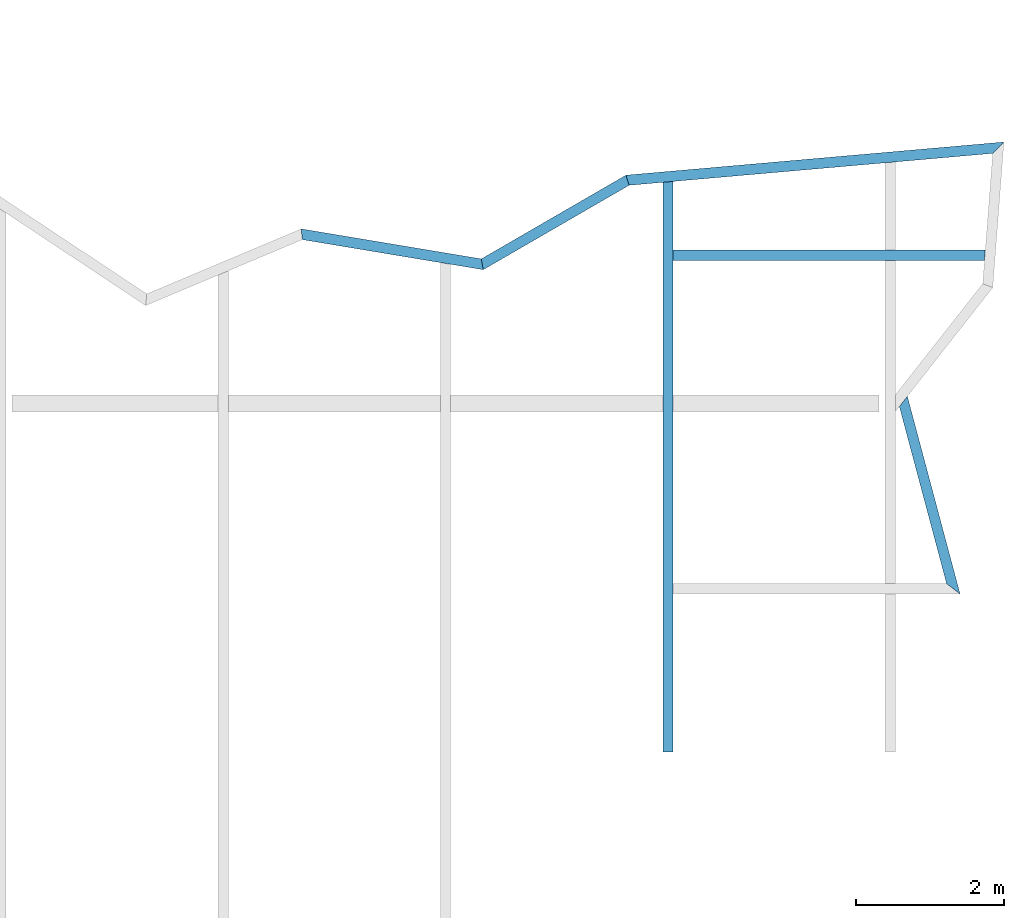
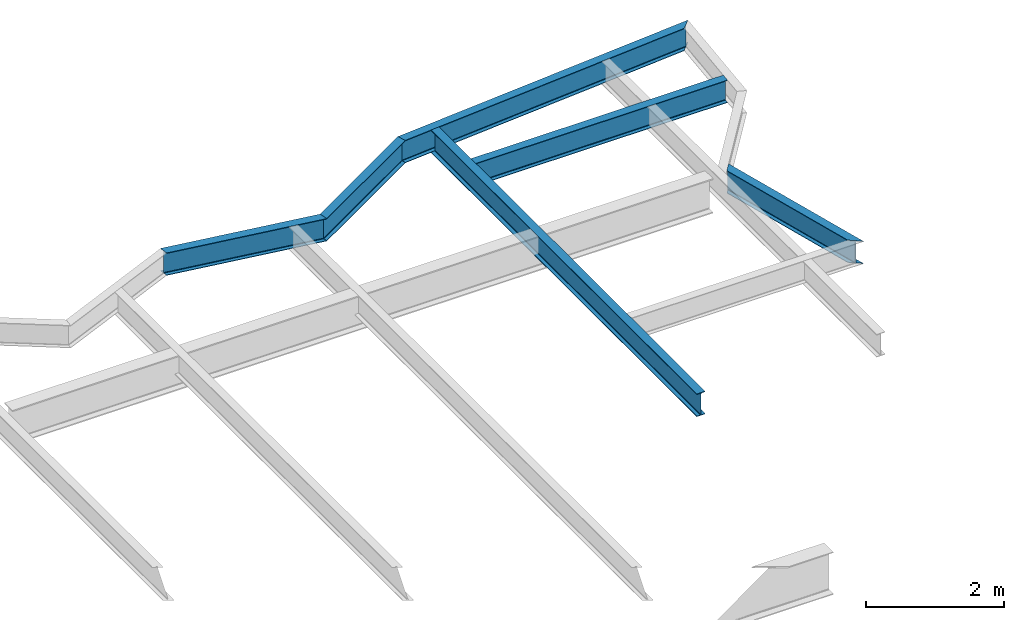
# One storey, part 20 of 21: 6 beams.
"""IFC2X3 building model written with IfcOpenShell, lengths in millimetres."""

import ifcopenshell
import ifcopenshell.guid

model = None  # the IFC model being written
_history = None  # IfcOwnerHistory: only IFC2X3 demands one
_inside = {}  # id of a spatial element -> (the spatial element, [elements in it])
_under = {}  # id of a project, library or spatial element -> (it, [spatial elements below it])
_declared = {}  # id of a project -> (the project, [libraries it declares])
_typed = {}  # id of a type object -> (the type object, [elements of that type])
_made_of = {}  # id of a material, layer set ... -> (it, [elements and type objects made of it])


def new_model(schema):
    """Start an empty IFC model of exactly this schema.

    Asked for "IFC4X3", IfcOpenShell would pick the latest addendum, in which some entities
    have other attributes; the version numbers below select the first issue.
    IFC2X3 requires an IfcOwnerHistory on every rooted entity: one is made here for all.
    """
    global model, _history
    if schema == "IFC4X3":
        model = ifcopenshell.file(schema_version=(4, 3, 0, 0))
    else:
        model = ifcopenshell.file(schema=schema)
    _inside.clear()
    _under.clear()
    _declared.clear()
    _typed.clear()
    _made_of.clear()
    _history = None
    if model.schema == "IFC2X3":
        org = make("IfcOrganization", Name="unknown")
        user = make(
            "IfcPersonAndOrganization",
            ThePerson=make("IfcPerson", FamilyName="unknown"),
            TheOrganization=org,
        )
        app = make(
            "IfcApplication",
            ApplicationDeveloper=org,
            Version="unknown",
            ApplicationFullName="unknown",
            ApplicationIdentifier="unknown",
        )
        _history = make(
            "IfcOwnerHistory",
            OwningUser=user,
            OwningApplication=app,
            ChangeAction="ADDED",
            CreationDate=0,
        )
    return model


def make(cls, **values):
    """One entity of the class cls with the attributes given. An attribute that is None is left unset."""
    return model.create_entity(
        cls, **{name: value for name, value in values.items() if value is not None}
    )


def rooted(cls, **values):
    """An entity with a GlobalId (a new one), such as an element, a storey or a relation."""
    return make(cls, GlobalId=ifcopenshell.guid.new(), OwnerHistory=_history, **values)


def si_unit(unit_type, name, prefix=None):
    """IfcSIUnit, for example si_unit("LENGTHUNIT", "METRE", prefix="MILLI")."""
    return make("IfcSIUnit", UnitType=unit_type, Prefix=prefix, Name=name)


def assignment(units):
    """IfcUnitAssignment: the units of a project."""
    return None if units is None else make("IfcUnitAssignment", Units=units)


def point(xyz):
    """IfcCartesianPoint."""
    return None if xyz is None else make("IfcCartesianPoint", Coordinates=xyz)


def direction(xyz):
    """IfcDirection."""
    return None if xyz is None else make("IfcDirection", DirectionRatios=xyz)


def frame(location, z_axis=None, x_axis=None):
    """IfcAxis2Placement3D, a coordinate frame: its origin and axes. An axis left out is left unset."""
    return make(
        "IfcAxis2Placement3D",
        Location=point(location),
        Axis=direction(z_axis),
        RefDirection=direction(x_axis),
    )


def origin():
    """The frame at (0, 0, 0) with its axes left unset."""
    return frame((0.0, 0.0, 0.0))


def place(relative_to, where):
    """IfcLocalPlacement: puts the frame where relative to a parent placement (None: the world)."""
    return make(
        "IfcLocalPlacement", PlacementRelTo=relative_to, RelativePlacement=where
    )


def context(
    kind, dimensions, precision=None, world=None, true_north=None, identifier=None
):
    """IfcGeometricRepresentationContext, for example the 3D "Model" context."""
    return make(
        "IfcGeometricRepresentationContext",
        ContextIdentifier=identifier,
        ContextType=kind,
        CoordinateSpaceDimension=dimensions,
        Precision=precision,
        WorldCoordinateSystem=world,
        TrueNorth=true_north,
    )


def project(units=None, contexts=None):
    """IfcProject with its units and contexts."""
    return rooted(
        "IfcProject",
        Name="project",
        RepresentationContexts=contexts,
        UnitsInContext=assignment(units),
    )


def spatial(cls, under=None, at=None, **own):
    """A site, building, storey or space (cls), placed at a placement, below another one or the project."""
    s = rooted(cls, ObjectPlacement=at, **own)
    if under is not None:
        _under.setdefault(under.id(), (under, []))[1].append(s)
    return s


def faces_of(points, faces, orient=None, outer=None):
    """IfcFace entities. A face is a list of loops; a loop is a list of indices into points, from 0.

    orient and outer hold one flag for each loop. By default every Orientation is true, the
    first loop of a face is its IfcFaceOuterBound and the others are IfcFaceBound.
    """
    made = []
    for i, loops in enumerate(faces):
        bounds = []
        for j, loop in enumerate(loops):
            is_outer = j == 0 if outer is None else outer[i][j]
            bounds.append(
                make(
                    "IfcFaceOuterBound" if is_outer else "IfcFaceBound",
                    Bound=make("IfcPolyLoop", Polygon=[points[k] for k in loop]),
                    Orientation=True if orient is None else orient[i][j],
                )
            )
        made.append(make("IfcFace", Bounds=bounds))
    return made


def faceted_brep(points, faces, orient=None, outer=None, voids=None):
    """IfcFacetedBrep: a solid bounded by flat faces; with voids (closed shells), ...WithVoids."""
    shared = [point(p) for p in points]
    hull = make("IfcClosedShell", CfsFaces=faces_of(shared, faces, orient, outer))
    if voids is None:
        return make("IfcFacetedBrep", Outer=hull)
    return make(
        "IfcFacetedBrepWithVoids",
        Outer=hull,
        Voids=[
            make(cls, CfsFaces=faces_of(shared, fs, o, b)) for cls, fs, o, b in voids
        ],
    )


def shape(context_of_items, identifier, shape_type, items):
    """IfcShapeRepresentation: the items that make up one representation, for example the "Body"."""
    return make(
        "IfcShapeRepresentation",
        ContextOfItems=context_of_items,
        RepresentationIdentifier=identifier,
        RepresentationType=shape_type,
        Items=items,
    )


def material(Name=None, Category=None):
    """IfcMaterial."""
    return make("IfcMaterial", Name=Name, Category=Category)


def made_of(thing, what):
    """Note that an element or type object is made of a material, layer set ...; save() writes the relation."""
    if what is not None:
        _made_of.setdefault(what.id(), (what, []))[1].append(thing)
    return thing


def element(
    cls,
    number,
    at=None,
    inside=None,
    cuts=None,
    type_object=None,
    material=None,
    context=None,
    identifier="Body",
    shape_type=None,
    held_by="IfcProductDefinitionShape",
    body=None,
    shapes=None,
    **own,
):
    """One element of the class cls, such as IfcWall. Its Tag is "e" and its number.

    at: its placement. inside: the storey or other place that contains it. cuts: it is an
    opening in that element (IfcRelVoidsElement). A single representation is given by context,
    identifier, shape_type and body (its items); several are given by shapes. held_by: the class
    of the entity that holds the representations. save() writes the other relations.
    """
    e = rooted(cls, Tag="e%d" % number, ObjectPlacement=at, **own)
    if body is not None:
        shapes = [shape(context, identifier, shape_type, body)]
    if shapes is not None:
        e.Representation = make(held_by, Representations=shapes)
    if inside is not None:
        _inside.setdefault(inside.id(), (inside, []))[1].append(e)
    if cuts is not None:
        rooted(
            "IfcRelVoidsElement", RelatingBuildingElement=cuts, RelatedOpeningElement=e
        )
    if type_object is not None:
        _typed.setdefault(type_object.id(), (type_object, []))[1].append(e)
    return made_of(e, material)


def aggregate(whole, parts):
    """IfcRelAggregates: a whole, such as a stair, and the parts it consists of."""
    return rooted("IfcRelAggregates", RelatingObject=whole, RelatedObjects=parts)


def save(model, path):
    """Write the relations noted so far, then the file.

    IfcRelAggregates (storeys below a building ...), IfcRelContainedInSpatialStructure (elements
    in a storey), IfcRelDefinesByType, IfcRelAssociatesMaterial and IfcRelDeclares: one each for
    every whole, place, type object, material and project.
    """
    for whole, parts in _under.values():
        aggregate(whole, parts)
    for where, things in _inside.values():
        rooted(
            "IfcRelContainedInSpatialStructure",
            RelatedElements=things,
            RelatingStructure=where,
        )
    for kind, things in _typed.values():
        rooted("IfcRelDefinesByType", RelatedObjects=things, RelatingType=kind)
    for what, things in _made_of.values():
        rooted("IfcRelAssociatesMaterial", RelatedObjects=things, RelatingMaterial=what)
    for by, libraries in _declared.values():
        rooted("IfcRelDeclares", RelatingContext=by, RelatedDefinitions=libraries)
    model.write(path)


model = new_model("IFC2X3")

# Units and contexts
context_of_model = context(None, 3, precision=1e-05, world=origin())
ifc_project = project(units=[si_unit("LENGTHUNIT", "METRE", prefix="MILLI")], contexts=[context_of_model])

# Building, storey
building = spatial("IfcBuilding", under=ifc_project, Name="Building", CompositionType="ELEMENT")
storey = spatial("IfcBuildingStorey", under=building, Name="FL6-FRM", CompositionType="ELEMENT")

# Beams
ifc_material_1 = material(Name="A992")
beam_1_placement = place(None, origin())
element("IfcBeam", 1, at=beam_1_placement, inside=storey, material=ifc_material_1, Name="B896", context=context_of_model, shape_type="Brep", body=[
    faceted_brep([(80930.0, 29983.1, 21970.0), (81070.0, 29995.4, 21970.0), (81070.0, 22300.0, 21970.0), (80930.0, 22300.0, 21970.0), (81070.0, 29995.4, 21981.2), (81070.0, 22300.0, 21981.2), (81013.7, 29990.4, 21981.2), (81013.7, 22300.0, 21981.2), (81012.2, 29990.3, 21981.3), (81012.2, 22300.0, 21981.3), (81010.8, 29990.2, 21981.6), (81010.8, 22300.0, 21981.6), (81009.5, 29990.0, 21982.1), (81009.5, 22300.0, 21982.1), (81008.2, 29989.9, 21982.8), (81008.2, 22300.0, 21982.8), (81007.0, 29989.8, 21983.7), (81007.0, 22300.0, 21983.7), (81006.0, 29989.7, 21984.7), (81006.0, 22300.0, 21984.7), (81005.1, 29989.7, 21985.9), (81005.1, 22300.0, 21985.9), (81004.4, 29989.6, 21987.2), (81004.4, 22300.0, 21987.2), (81003.9, 29989.6, 21988.5), (81003.9, 22300.0, 21988.5), (81003.6, 29989.5, 21989.9), (81003.6, 22300.0, 21989.9), (81003.5, 29989.5, 21991.4), (81003.5, 22300.0, 21991.4), (81003.5, 29989.5, 22351.6), (81003.5, 22300.0, 22351.6), (81003.6, 29989.5, 22353.1), (81003.6, 22300.0, 22353.1), (81003.9, 29989.6, 22354.5), (81003.9, 22300.0, 22354.5), (81004.4, 29989.6, 22355.8), (81004.4, 22300.0, 22355.8), (81005.1, 29989.7, 22357.1), (81005.1, 22300.0, 22357.1), (81006.0, 29989.7, 22358.3), (81006.0, 22300.0, 22358.3), (81007.0, 29989.8, 22359.3), (81007.0, 22300.0, 22359.3), (81008.2, 29989.9, 22360.2), (81008.2, 22300.0, 22360.2), (81009.5, 29990.0, 22360.9), (81009.5, 22300.0, 22360.9), (81010.8, 29990.2, 22361.4), (81010.8, 22300.0, 22361.4), (81012.2, 29990.3, 22361.7), (81012.2, 22300.0, 22361.7), (81013.7, 29990.4, 22361.8), (81013.7, 22300.0, 22361.8), (81070.0, 29995.4, 22361.8), (81070.0, 22300.0, 22361.8), (81070.0, 29995.4, 22373.0), (81070.0, 22300.0, 22373.0), (80930.0, 29983.1, 22373.0), (80930.0, 22300.0, 22373.0), (80930.0, 29983.1, 22361.8), (80930.0, 22300.0, 22361.8), (80986.3, 29988.0, 22361.8), (80986.3, 22300.0, 22361.8), (80987.8, 29988.1, 22361.7), (80987.8, 22300.0, 22361.7), (80989.2, 29988.3, 22361.4), (80989.2, 22300.0, 22361.4), (80990.5, 29988.4, 22360.9), (80990.5, 22300.0, 22360.9), (80991.8, 29988.5, 22360.2), (80991.8, 22300.0, 22360.2), (80993.0, 29988.6, 22359.3), (80993.0, 22300.0, 22359.3), (80994.0, 29988.7, 22358.3), (80994.0, 22300.0, 22358.3), (80994.9, 29988.8, 22357.1), (80994.9, 22300.0, 22357.1), (80995.6, 29988.8, 22355.8), (80995.6, 22300.0, 22355.8), (80996.1, 29988.9, 22354.5), (80996.1, 22300.0, 22354.5), (80996.4, 29988.9, 22353.1), (80996.4, 22300.0, 22353.1), (80996.5, 29988.9, 22351.6), (80996.5, 22300.0, 22351.6), (80996.5, 29988.9, 21991.4), (80996.5, 22300.0, 21991.4), (80996.4, 29988.9, 21989.9), (80996.4, 22300.0, 21989.9), (80996.1, 29988.9, 21988.5), (80996.1, 22300.0, 21988.5), (80995.6, 29988.8, 21987.2), (80995.6, 22300.0, 21987.2), (80994.9, 29988.8, 21985.9), (80994.9, 22300.0, 21985.9), (80994.0, 29988.7, 21984.7), (80994.0, 22300.0, 21984.7), (80993.0, 29988.6, 21983.7), (80993.0, 22300.0, 21983.7), (80991.8, 29988.5, 21982.8), (80991.8, 22300.0, 21982.8), (80990.5, 29988.4, 21982.1), (80990.5, 22300.0, 21982.1), (80989.2, 29988.3, 21981.6), (80989.2, 22300.0, 21981.6), (80987.8, 29988.1, 21981.3), (80987.8, 22300.0, 21981.3), (80986.3, 29988.0, 21981.2), (80986.3, 22300.0, 21981.2), (80930.0, 29983.1, 21981.2), (80930.0, 22300.0, 21981.2)], [[[0, 1, 2, 3]], [[1, 4, 5, 2]], [[4, 6, 7, 5]], [[6, 8, 9, 7]], [[8, 10, 11, 9]], [[10, 12, 13, 11]], [[12, 14, 15, 13]], [[14, 16, 17, 15]], [[16, 18, 19, 17]], [[18, 20, 21, 19]], [[20, 22, 23, 21]], [[22, 24, 25, 23]], [[24, 26, 27, 25]], [[26, 28, 29, 27]], [[28, 30, 31, 29]], [[30, 32, 33, 31]], [[32, 34, 35, 33]], [[34, 36, 37, 35]], [[36, 38, 39, 37]], [[38, 40, 41, 39]], [[40, 42, 43, 41]], [[42, 44, 45, 43]], [[44, 46, 47, 45]], [[46, 48, 49, 47]], [[48, 50, 51, 49]], [[50, 52, 53, 51]], [[52, 54, 55, 53]], [[54, 56, 57, 55]], [[56, 58, 59, 57]], [[58, 60, 61, 59]], [[60, 62, 63, 61]], [[62, 64, 65, 63]], [[64, 66, 67, 65]], [[66, 68, 69, 67]], [[68, 70, 71, 69]], [[70, 72, 73, 71]], [[72, 74, 75, 73]], [[74, 76, 77, 75]], [[76, 78, 79, 77]], [[78, 80, 81, 79]], [[80, 82, 83, 81]], [[82, 84, 85, 83]], [[84, 86, 87, 85]], [[86, 88, 89, 87]], [[88, 90, 91, 89]], [[90, 92, 93, 91]], [[92, 94, 95, 93]], [[94, 96, 97, 95]], [[96, 98, 99, 97]], [[98, 100, 101, 99]], [[100, 102, 103, 101]], [[102, 104, 105, 103]], [[104, 106, 107, 105]], [[106, 108, 109, 107]], [[108, 110, 111, 109]], [[110, 0, 3, 111]], [[0, 110, 108, 106, 104, 102, 100, 98, 96, 94, 92, 90, 88, 86, 84, 82, 80, 78, 76, 74, 72, 70, 68, 66, 64, 62, 60, 58, 56, 54, 52, 50, 48, 46, 44, 42, 40, 38, 36, 34, 32, 30, 28, 26, 24, 22, 20, 18, 16, 14, 12, 10, 8, 6, 4, 1]], [[3, 2, 5, 7, 9, 11, 13, 15, 17, 19, 21, 23, 25, 27, 29, 31, 33, 35, 37, 39, 41, 43, 45, 47, 49, 51, 53, 55, 57, 59, 61, 63, 65, 67, 69, 71, 73, 75, 77, 79, 81, 83, 85, 87, 89, 91, 93, 95, 97, 99, 101, 103, 105, 107, 109, 111]]]),
])
ifc_material_2 = material(Name="A992")
beam_2_placement = place(None, origin())
element("IfcBeam", 2, at=beam_2_placement, inside=storey, material=ifc_material_2, Name="B905", context=context_of_model, shape_type="Brep", body=[
    faceted_brep([(81070.0, 28930.0, 21974.0), (81070.0, 29070.0, 21974.0), (85279.9, 29070.0, 21974.0), (85269.1, 28930.0, 21974.0), (81070.0, 29070.0, 21982.8), (85279.9, 29070.0, 21982.8), (81070.0, 29013.4, 21982.8), (85275.5, 29013.4, 21982.8), (81070.0, 29011.9, 21982.9), (85275.4, 29011.9, 21982.9), (81070.0, 29010.5, 21983.2), (85275.3, 29010.5, 21983.2), (81070.0, 29009.2, 21983.7), (85275.2, 29009.2, 21983.7), (81070.0, 29007.9, 21984.4), (85275.1, 29007.9, 21984.4), (81070.0, 29006.7, 21985.3), (85275.0, 29006.7, 21985.3), (81070.0, 29005.7, 21986.3), (85274.9, 29005.7, 21986.3), (81070.0, 29004.8, 21987.5), (85274.8, 29004.8, 21987.5), (81070.0, 29004.1, 21988.8), (85274.8, 29004.1, 21988.8), (81070.0, 29003.6, 21990.1), (85274.7, 29003.6, 21990.1), (81070.0, 29003.3, 21991.5), (85274.7, 29003.3, 21991.5), (81070.0, 29003.2, 21993.0), (85274.7, 29003.2, 21993.0), (81070.0, 29003.2, 22354.0), (85274.7, 29003.2, 22354.0), (81070.0, 29003.3, 22355.5), (85274.7, 29003.3, 22355.5), (81070.0, 29003.6, 22356.9), (85274.7, 29003.6, 22356.9), (81070.0, 29004.1, 22358.2), (85274.8, 29004.1, 22358.2), (81070.0, 29004.8, 22359.5), (85274.8, 29004.8, 22359.5), (81070.0, 29005.7, 22360.7), (85274.9, 29005.7, 22360.7), (81070.0, 29006.7, 22361.7), (85275.0, 29006.7, 22361.7), (81070.0, 29007.9, 22362.6), (85275.1, 29007.9, 22362.6), (81070.0, 29009.2, 22363.3), (85275.2, 29009.2, 22363.3), (81070.0, 29010.5, 22363.8), (85275.3, 29010.5, 22363.8), (81070.0, 29011.9, 22364.1), (85275.4, 29011.9, 22364.1), (81070.0, 29013.4, 22364.2), (85275.5, 29013.4, 22364.2), (81070.0, 29070.0, 22364.2), (85279.9, 29070.0, 22364.2), (81070.0, 29070.0, 22373.0), (85279.9, 29070.0, 22373.0), (81070.0, 28930.0, 22373.0), (85269.1, 28930.0, 22373.0), (81070.0, 28930.0, 22364.2), (85269.1, 28930.0, 22364.2), (81070.0, 28986.6, 22364.2), (85273.4, 28986.6, 22364.2), (81070.0, 28988.1, 22364.1), (85273.6, 28988.1, 22364.1), (81070.0, 28989.5, 22363.8), (85273.7, 28989.5, 22363.8), (81070.0, 28990.8, 22363.3), (85273.8, 28990.8, 22363.3), (81070.0, 28992.1, 22362.6), (85273.9, 28992.1, 22362.6), (81070.0, 28993.3, 22361.7), (85274.0, 28993.3, 22361.7), (81070.0, 28994.3, 22360.7), (85274.0, 28994.3, 22360.7), (81070.0, 28995.2, 22359.5), (85274.1, 28995.2, 22359.5), (81070.0, 28995.9, 22358.2), (85274.2, 28995.9, 22358.2), (81070.0, 28996.4, 22356.9), (85274.2, 28996.4, 22356.9), (81070.0, 28996.7, 22355.5), (85274.2, 28996.7, 22355.5), (81070.0, 28996.8, 22354.0), (85274.2, 28996.8, 22354.0), (81070.0, 28996.8, 21993.0), (85274.2, 28996.8, 21993.0), (81070.0, 28996.7, 21991.5), (85274.2, 28996.7, 21991.5), (81070.0, 28996.4, 21990.1), (85274.2, 28996.4, 21990.1), (81070.0, 28995.9, 21988.8), (85274.2, 28995.9, 21988.8), (81070.0, 28995.2, 21987.5), (85274.1, 28995.2, 21987.5), (81070.0, 28994.3, 21986.3), (85274.0, 28994.3, 21986.3), (81070.0, 28993.3, 21985.3), (85274.0, 28993.3, 21985.3), (81070.0, 28992.1, 21984.4), (85273.9, 28992.1, 21984.4), (81070.0, 28990.8, 21983.7), (85273.8, 28990.8, 21983.7), (81070.0, 28989.5, 21983.2), (85273.7, 28989.5, 21983.2), (81070.0, 28988.1, 21982.9), (85273.6, 28988.1, 21982.9), (81070.0, 28986.6, 21982.8), (85273.4, 28986.6, 21982.8), (81070.0, 28930.0, 21982.8), (85269.1, 28930.0, 21982.8)], [[[0, 1, 2, 3]], [[1, 4, 5, 2]], [[4, 6, 7, 5]], [[6, 8, 9, 7]], [[8, 10, 11, 9]], [[10, 12, 13, 11]], [[12, 14, 15, 13]], [[14, 16, 17, 15]], [[16, 18, 19, 17]], [[18, 20, 21, 19]], [[20, 22, 23, 21]], [[22, 24, 25, 23]], [[24, 26, 27, 25]], [[26, 28, 29, 27]], [[28, 30, 31, 29]], [[30, 32, 33, 31]], [[32, 34, 35, 33]], [[34, 36, 37, 35]], [[36, 38, 39, 37]], [[38, 40, 41, 39]], [[40, 42, 43, 41]], [[42, 44, 45, 43]], [[44, 46, 47, 45]], [[46, 48, 49, 47]], [[48, 50, 51, 49]], [[50, 52, 53, 51]], [[52, 54, 55, 53]], [[54, 56, 57, 55]], [[56, 58, 59, 57]], [[58, 60, 61, 59]], [[60, 62, 63, 61]], [[62, 64, 65, 63]], [[64, 66, 67, 65]], [[66, 68, 69, 67]], [[68, 70, 71, 69]], [[70, 72, 73, 71]], [[72, 74, 75, 73]], [[74, 76, 77, 75]], [[76, 78, 79, 77]], [[78, 80, 81, 79]], [[80, 82, 83, 81]], [[82, 84, 85, 83]], [[84, 86, 87, 85]], [[86, 88, 89, 87]], [[88, 90, 91, 89]], [[90, 92, 93, 91]], [[92, 94, 95, 93]], [[94, 96, 97, 95]], [[96, 98, 99, 97]], [[98, 100, 101, 99]], [[100, 102, 103, 101]], [[102, 104, 105, 103]], [[104, 106, 107, 105]], [[106, 108, 109, 107]], [[108, 110, 111, 109]], [[110, 0, 3, 111]], [[0, 110, 108, 106, 104, 102, 100, 98, 96, 94, 92, 90, 88, 86, 84, 82, 80, 78, 76, 74, 72, 70, 68, 66, 64, 62, 60, 58, 56, 54, 52, 50, 48, 46, 44, 42, 40, 38, 36, 34, 32, 30, 28, 26, 24, 22, 20, 18, 16, 14, 12, 10, 8, 6, 4, 1]], [[3, 2, 5, 7, 9, 11, 13, 15, 17, 19, 21, 23, 25, 27, 29, 31, 33, 35, 37, 39, 41, 43, 45, 47, 49, 51, 53, 55, 57, 59, 61, 63, 65, 67, 69, 71, 73, 75, 77, 79, 81, 83, 85, 87, 89, 91, 93, 95, 97, 99, 101, 103, 105, 107, 109, 111]]]),
])
ifc_material_3 = material(Name="A992")
beam_3_placement = place(None, origin())
element("IfcBeam", 3, at=beam_3_placement, inside=storey, material=ifc_material_3, Name="B917", context=context_of_model, shape_type="Brep", body=[
    faceted_brep([(76069.1, 29210.6, 21974.0), (76052.1, 29355.4, 21974.0), (78481.7, 28950.4, 21974.0), (78508.3, 28804.1, 21974.0), (76052.1, 29355.4, 21982.8), (78481.7, 28950.4, 21982.8), (76059.0, 29296.9, 21982.8), (78492.5, 28891.3, 21982.8), (76059.2, 29295.4, 21982.9), (78492.8, 28889.8, 21982.9), (76059.3, 29293.9, 21983.2), (78493.0, 28888.3, 21983.2), (76059.5, 29292.5, 21983.7), (78493.3, 28886.8, 21983.7), (76059.6, 29291.2, 21984.4), (78493.5, 28885.5, 21984.4), (76059.8, 29290.0, 21985.3), (78493.7, 28884.3, 21985.3), (76059.9, 29288.9, 21986.3), (78493.9, 28883.2, 21986.3), (76060.0, 29288.0, 21987.5), (78494.1, 28882.3, 21987.5), (76060.1, 29287.3, 21988.8), (78494.2, 28881.6, 21988.8), (76060.2, 29286.7, 21990.1), (78494.3, 28881.0, 21990.1), (76060.2, 29286.4, 21991.5), (78494.4, 28880.7, 21991.5), (76060.2, 29286.3, 21993.0), (78494.4, 28880.6, 21993.0), (76060.2, 29286.3, 22354.0), (78494.4, 28880.6, 22354.0), (76060.2, 29286.4, 22355.5), (78494.4, 28880.7, 22355.5), (76060.2, 29286.7, 22356.9), (78494.3, 28881.0, 22356.9), (76060.1, 29287.3, 22358.2), (78494.2, 28881.6, 22358.2), (76060.0, 29288.0, 22359.5), (78494.1, 28882.3, 22359.5), (76059.9, 29288.9, 22360.7), (78493.9, 28883.2, 22360.7), (76059.8, 29290.0, 22361.7), (78493.7, 28884.3, 22361.7), (76059.6, 29291.2, 22362.6), (78493.5, 28885.5, 22362.6), (76059.5, 29292.5, 22363.3), (78493.3, 28886.8, 22363.3), (76059.3, 29293.9, 22363.8), (78493.0, 28888.3, 22363.8), (76059.2, 29295.4, 22364.1), (78492.8, 28889.8, 22364.1), (76059.0, 29296.9, 22364.2), (78492.5, 28891.3, 22364.2), (76052.1, 29355.4, 22364.2), (78481.7, 28950.4, 22364.2), (76052.1, 29355.4, 22373.0), (78481.7, 28950.4, 22373.0), (76069.1, 29210.6, 22373.0), (78508.3, 28804.1, 22373.0), (76069.1, 29210.6, 22364.2), (78508.3, 28804.1, 22364.2), (76062.2, 29269.1, 22364.2), (78497.6, 28863.3, 22364.2), (76062.1, 29270.6, 22364.1), (78497.3, 28864.8, 22364.1), (76061.9, 29272.1, 22363.8), (78497.0, 28866.3, 22363.8), (76061.7, 29273.5, 22363.3), (78496.8, 28867.7, 22363.3), (76061.6, 29274.8, 22362.6), (78496.5, 28869.0, 22362.6), (76061.4, 29276.1, 22361.7), (78496.3, 28870.2, 22361.7), (76061.3, 29277.1, 22360.7), (78496.1, 28871.3, 22360.7), (76061.2, 29278.0, 22359.5), (78495.9, 28872.2, 22359.5), (76061.1, 29278.7, 22358.2), (78495.8, 28873.0, 22358.2), (76061.0, 29279.3, 22356.9), (78495.7, 28873.5, 22356.9), (76061.0, 29279.6, 22355.5), (78495.7, 28873.8, 22355.5), (76061.0, 29279.7, 22354.0), (78495.6, 28873.9, 22354.0), (76061.0, 29279.7, 21993.0), (78495.6, 28873.9, 21993.0), (76061.0, 29279.6, 21991.5), (78495.7, 28873.8, 21991.5), (76061.0, 29279.3, 21990.1), (78495.7, 28873.5, 21990.1), (76061.1, 29278.7, 21988.8), (78495.8, 28873.0, 21988.8), (76061.2, 29278.0, 21987.5), (78495.9, 28872.2, 21987.5), (76061.3, 29277.1, 21986.3), (78496.1, 28871.3, 21986.3), (76061.4, 29276.1, 21985.3), (78496.3, 28870.2, 21985.3), (76061.6, 29274.8, 21984.4), (78496.5, 28869.0, 21984.4), (76061.7, 29273.5, 21983.7), (78496.8, 28867.7, 21983.7), (76061.9, 29272.1, 21983.2), (78497.0, 28866.3, 21983.2), (76062.1, 29270.6, 21982.9), (78497.3, 28864.8, 21982.9), (76062.2, 29269.1, 21982.8), (78497.6, 28863.3, 21982.8), (76069.1, 29210.6, 21982.8), (78508.3, 28804.1, 21982.8)], [[[0, 1, 2, 3]], [[1, 4, 5, 2]], [[4, 6, 7, 5]], [[6, 8, 9, 7]], [[8, 10, 11, 9]], [[10, 12, 13, 11]], [[12, 14, 15, 13]], [[14, 16, 17, 15]], [[16, 18, 19, 17]], [[18, 20, 21, 19]], [[20, 22, 23, 21]], [[22, 24, 25, 23]], [[24, 26, 27, 25]], [[26, 28, 29, 27]], [[28, 30, 31, 29]], [[30, 32, 33, 31]], [[32, 34, 35, 33]], [[34, 36, 37, 35]], [[36, 38, 39, 37]], [[38, 40, 41, 39]], [[40, 42, 43, 41]], [[42, 44, 45, 43]], [[44, 46, 47, 45]], [[46, 48, 49, 47]], [[48, 50, 51, 49]], [[50, 52, 53, 51]], [[52, 54, 55, 53]], [[54, 56, 57, 55]], [[56, 58, 59, 57]], [[58, 60, 61, 59]], [[60, 62, 63, 61]], [[62, 64, 65, 63]], [[64, 66, 67, 65]], [[66, 68, 69, 67]], [[68, 70, 71, 69]], [[70, 72, 73, 71]], [[72, 74, 75, 73]], [[74, 76, 77, 75]], [[76, 78, 79, 77]], [[78, 80, 81, 79]], [[80, 82, 83, 81]], [[82, 84, 85, 83]], [[84, 86, 87, 85]], [[86, 88, 89, 87]], [[88, 90, 91, 89]], [[90, 92, 93, 91]], [[92, 94, 95, 93]], [[94, 96, 97, 95]], [[96, 98, 99, 97]], [[98, 100, 101, 99]], [[100, 102, 103, 101]], [[102, 104, 105, 103]], [[104, 106, 107, 105]], [[106, 108, 109, 107]], [[108, 110, 111, 109]], [[110, 0, 3, 111]], [[0, 110, 108, 106, 104, 102, 100, 98, 96, 94, 92, 90, 88, 86, 84, 82, 80, 78, 76, 74, 72, 70, 68, 66, 64, 62, 60, 58, 56, 54, 52, 50, 48, 46, 44, 42, 40, 38, 36, 34, 32, 30, 28, 26, 24, 22, 20, 18, 16, 14, 12, 10, 8, 6, 4, 1]], [[3, 2, 5, 7, 9, 11, 13, 15, 17, 19, 21, 23, 25, 27, 29, 31, 33, 35, 37, 39, 41, 43, 45, 47, 49, 51, 53, 55, 57, 59, 61, 63, 65, 67, 69, 71, 73, 75, 77, 79, 81, 83, 85, 87, 89, 91, 93, 95, 97, 99, 101, 103, 105, 107, 109, 111]]]),
])
ifc_material_4 = material(Name="A992")
beam_4_placement = place(None, origin())
element("IfcBeam", 4, at=beam_4_placement, inside=storey, material=ifc_material_4, Name="B918", context=context_of_model, shape_type="Brep", body=[
    faceted_brep([(78508.3, 28804.1, 21974.0), (78481.7, 28950.4, 21974.0), (80432.8, 30080.0, 21974.0), (80476.0, 29943.2, 21974.0), (78481.7, 28950.4, 21982.8), (80432.8, 30080.0, 21982.8), (78492.5, 28891.3, 21982.8), (80450.2, 30024.7, 21982.8), (78492.8, 28889.8, 21982.9), (80450.7, 30023.3, 21982.9), (78493.0, 28888.3, 21983.2), (80451.1, 30021.9, 21983.2), (78493.3, 28886.8, 21983.7), (80451.5, 30020.6, 21983.7), (78493.5, 28885.5, 21984.4), (80451.9, 30019.3, 21984.4), (78493.7, 28884.3, 21985.3), (80452.3, 30018.2, 21985.3), (78493.9, 28883.2, 21986.3), (80452.6, 30017.2, 21986.3), (78494.1, 28882.3, 21987.5), (80452.9, 30016.3, 21987.5), (78494.2, 28881.6, 21988.8), (80453.1, 30015.6, 21988.8), (78494.3, 28881.0, 21990.1), (80453.3, 30015.2, 21990.1), (78494.4, 28880.7, 21991.5), (80453.3, 30014.9, 21991.5), (78494.4, 28880.6, 21993.0), (80453.4, 30014.7, 21993.0), (78494.4, 28880.6, 22354.0), (80453.4, 30014.7, 22354.0), (78494.4, 28880.7, 22355.5), (80453.3, 30014.9, 22355.5), (78494.3, 28881.0, 22356.9), (80453.3, 30015.2, 22356.9), (78494.2, 28881.6, 22358.2), (80453.1, 30015.6, 22358.2), (78494.1, 28882.3, 22359.5), (80452.9, 30016.3, 22359.5), (78493.9, 28883.2, 22360.7), (80452.6, 30017.2, 22360.7), (78493.7, 28884.3, 22361.7), (80452.3, 30018.2, 22361.7), (78493.5, 28885.5, 22362.6), (80451.9, 30019.3, 22362.6), (78493.3, 28886.8, 22363.3), (80451.5, 30020.6, 22363.3), (78493.0, 28888.3, 22363.8), (80451.1, 30021.9, 22363.8), (78492.8, 28889.8, 22364.1), (80450.7, 30023.3, 22364.1), (78492.5, 28891.3, 22364.2), (80450.2, 30024.7, 22364.2), (78481.7, 28950.4, 22364.2), (80432.8, 30080.0, 22364.2), (78481.7, 28950.4, 22373.0), (80432.8, 30080.0, 22373.0), (78508.3, 28804.1, 22373.0), (80476.0, 29943.2, 22373.0), (78508.3, 28804.1, 22364.2), (80476.0, 29943.2, 22364.2), (78497.6, 28863.3, 22364.2), (80458.5, 29998.5, 22364.2), (78497.3, 28864.8, 22364.1), (80458.1, 29999.9, 22364.1), (78497.0, 28866.3, 22363.8), (80457.6, 30001.3, 22363.8), (78496.8, 28867.7, 22363.3), (80457.2, 30002.7, 22363.3), (78496.5, 28869.0, 22362.6), (80456.8, 30003.9, 22362.6), (78496.3, 28870.2, 22361.7), (80456.4, 30005.1, 22361.7), (78496.1, 28871.3, 22360.7), (80456.1, 30006.1, 22360.7), (78495.9, 28872.2, 22359.5), (80455.9, 30006.9, 22359.5), (78495.8, 28873.0, 22358.2), (80455.6, 30007.6, 22358.2), (78495.7, 28873.5, 22356.9), (80455.5, 30008.1, 22356.9), (78495.7, 28873.8, 22355.5), (80455.4, 30008.4, 22355.5), (78495.6, 28873.9, 22354.0), (80455.4, 30008.5, 22354.0), (78495.6, 28873.9, 21993.0), (80455.4, 30008.5, 21993.0), (78495.7, 28873.8, 21991.5), (80455.4, 30008.4, 21991.5), (78495.7, 28873.5, 21990.1), (80455.5, 30008.1, 21990.1), (78495.8, 28873.0, 21988.8), (80455.6, 30007.6, 21988.8), (78495.9, 28872.2, 21987.5), (80455.9, 30006.9, 21987.5), (78496.1, 28871.3, 21986.3), (80456.1, 30006.1, 21986.3), (78496.3, 28870.2, 21985.3), (80456.4, 30005.1, 21985.3), (78496.5, 28869.0, 21984.4), (80456.8, 30003.9, 21984.4), (78496.8, 28867.7, 21983.7), (80457.2, 30002.7, 21983.7), (78497.0, 28866.3, 21983.2), (80457.6, 30001.3, 21983.2), (78497.3, 28864.8, 21982.9), (80458.1, 29999.9, 21982.9), (78497.6, 28863.3, 21982.8), (80458.5, 29998.5, 21982.8), (78508.3, 28804.1, 21982.8), (80476.0, 29943.2, 21982.8)], [[[0, 1, 2, 3]], [[1, 4, 5, 2]], [[4, 6, 7, 5]], [[6, 8, 9, 7]], [[8, 10, 11, 9]], [[10, 12, 13, 11]], [[12, 14, 15, 13]], [[14, 16, 17, 15]], [[16, 18, 19, 17]], [[18, 20, 21, 19]], [[20, 22, 23, 21]], [[22, 24, 25, 23]], [[24, 26, 27, 25]], [[26, 28, 29, 27]], [[28, 30, 31, 29]], [[30, 32, 33, 31]], [[32, 34, 35, 33]], [[34, 36, 37, 35]], [[36, 38, 39, 37]], [[38, 40, 41, 39]], [[40, 42, 43, 41]], [[42, 44, 45, 43]], [[44, 46, 47, 45]], [[46, 48, 49, 47]], [[48, 50, 51, 49]], [[50, 52, 53, 51]], [[52, 54, 55, 53]], [[54, 56, 57, 55]], [[56, 58, 59, 57]], [[58, 60, 61, 59]], [[60, 62, 63, 61]], [[62, 64, 65, 63]], [[64, 66, 67, 65]], [[66, 68, 69, 67]], [[68, 70, 71, 69]], [[70, 72, 73, 71]], [[72, 74, 75, 73]], [[74, 76, 77, 75]], [[76, 78, 79, 77]], [[78, 80, 81, 79]], [[80, 82, 83, 81]], [[82, 84, 85, 83]], [[84, 86, 87, 85]], [[86, 88, 89, 87]], [[88, 90, 91, 89]], [[90, 92, 93, 91]], [[92, 94, 95, 93]], [[94, 96, 97, 95]], [[96, 98, 99, 97]], [[98, 100, 101, 99]], [[100, 102, 103, 101]], [[102, 104, 105, 103]], [[104, 106, 107, 105]], [[106, 108, 109, 107]], [[108, 110, 111, 109]], [[110, 0, 3, 111]], [[0, 110, 108, 106, 104, 102, 100, 98, 96, 94, 92, 90, 88, 86, 84, 82, 80, 78, 76, 74, 72, 70, 68, 66, 64, 62, 60, 58, 56, 54, 52, 50, 48, 46, 44, 42, 40, 38, 36, 34, 32, 30, 28, 26, 24, 22, 20, 18, 16, 14, 12, 10, 8, 6, 4, 1]], [[3, 2, 5, 7, 9, 11, 13, 15, 17, 19, 21, 23, 25, 27, 29, 31, 33, 35, 37, 39, 41, 43, 45, 47, 49, 51, 53, 55, 57, 59, 61, 63, 65, 67, 69, 71, 73, 75, 77, 79, 81, 83, 85, 87, 89, 91, 93, 95, 97, 99, 101, 103, 105, 107, 109, 111]]]),
])
ifc_material_5 = material(Name="A992")
beam_5_placement = place(None, origin())
element("IfcBeam", 5, at=beam_5_placement, inside=storey, material=ifc_material_5, Name="B919", context=context_of_model, shape_type="Brep", body=[
    faceted_brep([(80476.0, 29943.2, 21974.0), (80432.8, 30080.0, 21974.0), (85532.4, 30527.3, 21974.0), (85380.1, 30373.4, 21974.0), (80432.8, 30080.0, 21982.8), (85532.4, 30527.3, 21982.8), (80450.2, 30024.7, 21982.8), (85470.8, 30465.1, 21982.8), (80450.7, 30023.3, 21982.9), (85469.3, 30463.5, 21982.9), (80451.1, 30021.9, 21983.2), (85467.7, 30462.0, 21983.2), (80451.5, 30020.6, 21983.7), (85466.2, 30460.5, 21983.7), (80451.9, 30019.3, 21984.4), (85464.9, 30459.1, 21984.4), (80452.3, 30018.2, 21985.3), (85463.6, 30457.8, 21985.2), (80452.6, 30017.2, 21986.3), (85462.5, 30456.7, 21986.3), (80452.9, 30016.3, 21987.5), (85461.5, 30455.7, 21987.4), (80453.1, 30015.6, 21988.8), (85460.7, 30454.9, 21988.7), (80453.3, 30015.2, 21990.1), (85460.2, 30454.4, 21990.1), (80453.3, 30014.9, 21991.5), (85459.9, 30454.1, 21991.5), (80453.4, 30014.7, 21993.0), (85459.7, 30453.9, 21993.0), (80453.4, 30014.7, 22354.0), (85459.7, 30453.9, 22354.0), (80453.3, 30014.9, 22355.5), (85459.9, 30454.1, 22355.5), (80453.3, 30015.2, 22356.9), (85460.2, 30454.4, 22356.9), (80453.1, 30015.6, 22358.2), (85460.7, 30454.9, 22358.3), (80452.9, 30016.3, 22359.5), (85461.5, 30455.7, 22359.6), (80452.6, 30017.2, 22360.7), (85462.5, 30456.7, 22360.7), (80452.3, 30018.2, 22361.7), (85463.6, 30457.8, 22361.8), (80451.9, 30019.3, 22362.6), (85464.9, 30459.1, 22362.6), (80451.5, 30020.6, 22363.3), (85466.2, 30460.5, 22363.3), (80451.1, 30021.9, 22363.8), (85467.7, 30462.0, 22363.8), (80450.7, 30023.3, 22364.1), (85469.3, 30463.5, 22364.1), (80450.2, 30024.7, 22364.2), (85470.8, 30465.1, 22364.2), (80432.8, 30080.0, 22364.2), (85532.4, 30527.3, 22364.2), (80432.8, 30080.0, 22373.0), (85532.4, 30527.3, 22373.0), (80476.0, 29943.2, 22373.0), (85380.1, 30373.4, 22373.0), (80476.0, 29943.2, 22364.2), (85380.1, 30373.4, 22364.2), (80458.5, 29998.5, 22364.2), (85441.7, 30435.7, 22364.2), (80458.1, 29999.9, 22364.1), (85443.2, 30437.2, 22364.1), (80457.6, 30001.3, 22363.8), (85444.8, 30438.8, 22363.8), (80457.2, 30002.7, 22363.3), (85446.3, 30440.3, 22363.3), (80456.8, 30003.9, 22362.6), (85447.6, 30441.7, 22362.6), (80456.4, 30005.1, 22361.7), (85448.9, 30443.0, 22361.8), (80456.1, 30006.1, 22360.7), (85450.0, 30444.1, 22360.7), (80455.9, 30006.9, 22359.5), (85451.0, 30445.0, 22359.6), (80455.6, 30007.6, 22358.2), (85451.8, 30445.8, 22358.3), (80455.5, 30008.1, 22356.9), (85452.3, 30446.4, 22356.9), (80455.4, 30008.4, 22355.5), (85452.6, 30446.7, 22355.5), (80455.4, 30008.5, 22354.0), (85452.8, 30446.9, 22354.0), (80455.4, 30008.5, 21993.0), (85452.8, 30446.9, 21993.0), (80455.4, 30008.4, 21991.5), (85452.6, 30446.7, 21991.5), (80455.5, 30008.1, 21990.1), (85452.3, 30446.4, 21990.1), (80455.6, 30007.6, 21988.8), (85451.8, 30445.8, 21988.7), (80455.9, 30006.9, 21987.5), (85451.0, 30445.0, 21987.4), (80456.1, 30006.1, 21986.3), (85450.0, 30444.1, 21986.3), (80456.4, 30005.1, 21985.3), (85448.9, 30443.0, 21985.2), (80456.8, 30003.9, 21984.4), (85447.6, 30441.7, 21984.4), (80457.2, 30002.7, 21983.7), (85446.3, 30440.3, 21983.7), (80457.6, 30001.3, 21983.2), (85444.8, 30438.8, 21983.2), (80458.1, 29999.9, 21982.9), (85443.2, 30437.2, 21982.9), (80458.5, 29998.5, 21982.8), (85441.7, 30435.7, 21982.8), (80476.0, 29943.2, 21982.8), (85380.1, 30373.4, 21982.8)], [[[0, 1, 2, 3]], [[1, 4, 5, 2]], [[4, 6, 7, 5]], [[6, 8, 9, 7]], [[8, 10, 11, 9]], [[10, 12, 13, 11]], [[12, 14, 15, 13]], [[14, 16, 17, 15]], [[16, 18, 19, 17]], [[18, 20, 21, 19]], [[20, 22, 23, 21]], [[22, 24, 25, 23]], [[24, 26, 27, 25]], [[26, 28, 29, 27]], [[28, 30, 31, 29]], [[30, 32, 33, 31]], [[32, 34, 35, 33]], [[34, 36, 37, 35]], [[36, 38, 39, 37]], [[38, 40, 41, 39]], [[40, 42, 43, 41]], [[42, 44, 45, 43]], [[44, 46, 47, 45]], [[46, 48, 49, 47]], [[48, 50, 51, 49]], [[50, 52, 53, 51]], [[52, 54, 55, 53]], [[54, 56, 57, 55]], [[56, 58, 59, 57]], [[58, 60, 61, 59]], [[60, 62, 63, 61]], [[62, 64, 65, 63]], [[64, 66, 67, 65]], [[66, 68, 69, 67]], [[68, 70, 71, 69]], [[70, 72, 73, 71]], [[72, 74, 75, 73]], [[74, 76, 77, 75]], [[76, 78, 79, 77]], [[78, 80, 81, 79]], [[80, 82, 83, 81]], [[82, 84, 85, 83]], [[84, 86, 87, 85]], [[86, 88, 89, 87]], [[88, 90, 91, 89]], [[90, 92, 93, 91]], [[92, 94, 95, 93]], [[94, 96, 97, 95]], [[96, 98, 99, 97]], [[98, 100, 101, 99]], [[100, 102, 103, 101]], [[102, 104, 105, 103]], [[104, 106, 107, 105]], [[106, 108, 109, 107]], [[108, 110, 111, 109]], [[110, 0, 3, 111]], [[0, 110, 108, 106, 104, 102, 100, 98, 96, 94, 92, 90, 88, 86, 84, 82, 80, 78, 76, 74, 72, 70, 68, 66, 64, 62, 60, 58, 56, 54, 52, 50, 48, 46, 44, 42, 40, 38, 36, 34, 32, 30, 28, 26, 24, 22, 20, 18, 16, 14, 12, 10, 8, 6, 4, 1]], [[3, 2, 5, 7, 9, 11, 13, 15, 17, 19, 21, 23, 25, 27, 29, 31, 33, 35, 37, 39, 41, 43, 45, 47, 49, 51, 53, 55, 57, 59, 61, 63, 65, 67, 69, 71, 73, 75, 77, 79, 81, 83, 85, 87, 89, 91, 93, 95, 97, 99, 101, 103, 105, 107, 109, 111]]]),
])
ifc_material_6 = material(Name="A992")
beam_6_placement = place(None, origin())
element("IfcBeam", 6, at=beam_6_placement, inside=storey, material=ifc_material_6, Name="B922", context=context_of_model, shape_type="Brep", body=[
    faceted_brep([(84121.0, 26959.1, 21974.0), (84229.2, 27096.8, 21974.0), (84940.3, 24430.0, 21974.0), (84758.1, 24570.0, 21974.0), (84229.2, 27096.8, 21982.8), (84940.3, 24430.0, 21982.8), (84185.4, 27041.1, 21982.8), (84866.6, 24486.6, 21982.8), (84184.2, 27039.5, 21982.9), (84864.6, 24488.2, 21982.9), (84183.0, 27038.0, 21983.3), (84862.6, 24489.7, 21983.3), (84181.9, 27036.6, 21983.9), (84860.7, 24491.2, 21983.9), (84180.8, 27035.2, 21984.7), (84858.9, 24492.5, 21984.7), (84179.9, 27034.0, 21985.8), (84857.2, 24493.8, 21985.8), (84179.1, 27033.0, 21987.0), (84856.0, 24494.8, 21986.9), (84178.4, 27032.2, 21988.3), (84854.8, 24495.7, 21988.3), (84178.0, 27031.6, 21989.8), (84854.1, 24496.3, 21989.8), (84177.7, 27031.2, 21991.4), (84853.6, 24496.6, 21991.4), (84177.6, 27031.1, 21993.0), (84853.4, 24496.8, 21993.0), (84177.6, 27031.1, 22354.0), (84853.4, 24496.8, 22354.0), (84177.7, 27031.2, 22355.6), (84853.6, 24496.6, 22355.6), (84178.0, 27031.6, 22357.2), (84854.1, 24496.3, 22357.2), (84178.4, 27032.2, 22358.7), (84854.8, 24495.7, 22358.7), (84179.1, 27033.0, 22360.0), (84856.0, 24494.8, 22360.1), (84179.9, 27034.0, 22361.2), (84857.2, 24493.8, 22361.2), (84180.8, 27035.2, 22362.3), (84858.9, 24492.5, 22362.3), (84181.9, 27036.6, 22363.1), (84860.7, 24491.2, 22363.1), (84183.0, 27038.0, 22363.7), (84862.6, 24489.7, 22363.7), (84184.2, 27039.5, 22364.1), (84864.6, 24488.2, 22364.1), (84185.4, 27041.1, 22364.2), (84866.6, 24486.6, 22364.2), (84229.2, 27096.8, 22364.2), (84940.3, 24430.0, 22364.2), (84229.2, 27096.8, 22373.0), (84940.3, 24430.0, 22373.0), (84121.0, 26959.1, 22373.0), (84758.1, 24570.0, 22373.0), (84121.0, 26959.1, 22364.2), (84758.1, 24570.0, 22364.2), (84164.7, 27014.7, 22364.2), (84831.8, 24513.4, 22364.2), (84166.0, 27016.3, 22364.1), (84833.8, 24511.8, 22364.1), (84167.2, 27017.8, 22363.7), (84835.8, 24510.3, 22363.7), (84168.3, 27019.3, 22363.1), (84837.7, 24508.8, 22363.1), (84169.3, 27020.6, 22362.3), (84839.5, 24507.5, 22362.3), (84170.3, 27021.8, 22361.2), (84841.1, 24506.2, 22361.2), (84171.1, 27022.8, 22360.0), (84842.4, 24505.2, 22360.1), (84171.7, 27023.7, 22358.7), (84843.6, 24504.3, 22358.7), (84172.2, 27024.3, 22357.2), (84844.3, 24503.7, 22357.2), (84172.5, 27024.6, 22355.6), (84844.8, 24503.4, 22355.6), (84172.6, 27024.8, 22354.0), (84845.0, 24503.2, 22354.0), (84172.6, 27024.8, 21993.0), (84845.0, 24503.2, 21993.0), (84172.5, 27024.6, 21991.4), (84844.8, 24503.4, 21991.4), (84172.2, 27024.3, 21989.8), (84844.3, 24503.7, 21989.8), (84171.7, 27023.7, 21988.3), (84843.6, 24504.3, 21988.3), (84171.1, 27022.8, 21987.0), (84842.4, 24505.2, 21986.9), (84170.3, 27021.8, 21985.8), (84841.1, 24506.2, 21985.8), (84169.3, 27020.6, 21984.7), (84839.5, 24507.5, 21984.7), (84168.3, 27019.3, 21983.9), (84837.7, 24508.8, 21983.9), (84167.2, 27017.8, 21983.3), (84835.8, 24510.3, 21983.3), (84166.0, 27016.3, 21982.9), (84833.8, 24511.8, 21982.9), (84164.7, 27014.7, 21982.8), (84831.8, 24513.4, 21982.8), (84121.0, 26959.1, 21982.8), (84758.1, 24570.0, 21982.8)], [[[0, 1, 2, 3]], [[1, 4, 5, 2]], [[4, 6, 7, 5]], [[6, 8, 9, 7]], [[8, 10, 11, 9]], [[10, 12, 13, 11]], [[12, 14, 15, 13]], [[14, 16, 17, 15]], [[16, 18, 19, 17]], [[18, 20, 21, 19]], [[20, 22, 23, 21]], [[22, 24, 25, 23]], [[24, 26, 27, 25]], [[26, 28, 29, 27]], [[28, 30, 31, 29]], [[30, 32, 33, 31]], [[32, 34, 35, 33]], [[34, 36, 37, 35]], [[36, 38, 39, 37]], [[38, 40, 41, 39]], [[40, 42, 43, 41]], [[42, 44, 45, 43]], [[44, 46, 47, 45]], [[46, 48, 49, 47]], [[48, 50, 51, 49]], [[50, 52, 53, 51]], [[52, 54, 55, 53]], [[54, 56, 57, 55]], [[56, 58, 59, 57]], [[58, 60, 61, 59]], [[60, 62, 63, 61]], [[62, 64, 65, 63]], [[64, 66, 67, 65]], [[66, 68, 69, 67]], [[68, 70, 71, 69]], [[70, 72, 73, 71]], [[72, 74, 75, 73]], [[74, 76, 77, 75]], [[76, 78, 79, 77]], [[78, 80, 81, 79]], [[80, 82, 83, 81]], [[82, 84, 85, 83]], [[84, 86, 87, 85]], [[86, 88, 89, 87]], [[88, 90, 91, 89]], [[90, 92, 93, 91]], [[92, 94, 95, 93]], [[94, 96, 97, 95]], [[96, 98, 99, 97]], [[98, 100, 101, 99]], [[100, 102, 103, 101]], [[102, 0, 3, 103]], [[0, 102, 100, 98, 96, 94, 92, 90, 88, 86, 84, 82, 80, 78, 76, 74, 72, 70, 68, 66, 64, 62, 60, 58, 56, 54, 52, 50, 48, 46, 44, 42, 40, 38, 36, 34, 32, 30, 28, 26, 24, 22, 20, 18, 16, 14, 12, 10, 8, 6, 4, 1]], [[3, 2, 5, 7, 9, 11, 13, 15, 17, 19, 21, 23, 25, 27, 29, 31, 33, 35, 37, 39, 41, 43, 45, 47, 49, 51, 53, 55, 57, 59, 61, 63, 65, 67, 69, 71, 73, 75, 77, 79, 81, 83, 85, 87, 89, 91, 93, 95, 97, 99, 101, 103]]]),
])

save(model, "model.ifc")
